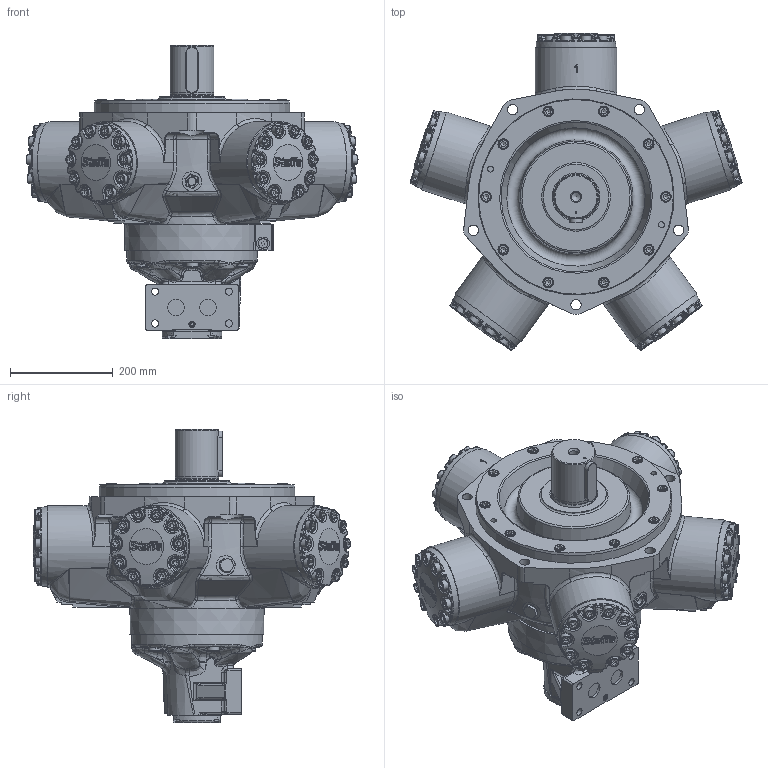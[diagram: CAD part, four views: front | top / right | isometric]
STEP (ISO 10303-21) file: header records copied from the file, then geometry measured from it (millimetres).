
FILE_DESCRIPTION(/* description */ (''),/* implementation_level */ '2;1');
FILE_NAME(/* name */ 'HMC200_P1_SM3_C_70.stp',/* time_stamp */ '2025-06-19T13:56:17+01:00',/* author */ ('ccallanga'),/* organization */ (''),/* preprocessor_version */ 'ST-DEVELOPER v20',/* originating_system */ 'Autodesk Inventor 2024',/* authorisation */ '');
FILE_SCHEMA (('AUTOMOTIVE_DESIGN { 1 0 10303 214 3 1 1 }'));
Products named in the file (1): 017751 HMC200 Web Assembly_Simplify_1
Bounding box: 645.1 x 616.02 x 569.42 mm (x, y, z)
Volume: 46681368 mm3; surface area: 1217782.5 mm2
Topology: 1 solids, 1 shells, 4707 faces, 11523 edges, 6840 vertices
Faces by surface type: bspline 1820, plane 1244, cylinder 974, torus 381, cone 173, sphere 115
Full cylindrical faces by diameter (mm): 2.2 x4, 4 x1, 4.134 x4, 5.5 x4, 9.4 x2, 11.328 x2, 11.913 x4, 12 x2, 12.7 x4, 14 x4, 16.51 x1, 17.323 x1, 19 x1, 19.05 x60, 20 x9, 20.637 x60, 23.825 x5, 25 x1, 25.4 x5, 26.92 x2, 32 x2, 38.1 x3, 68.58 x1, 85.001 x1, 88.837 x1, 92.964 x1, 127 x1, 254 x1, 380.91 x1
Entity records: 223215 total; most frequent: CARTESIAN_POINT 121739, ORIENTED_EDGE 22582, DIRECTION 16071, EDGE_CURVE 11291, VERTEX_POINT 6840, AXIS2_PLACEMENT_3D 6325, EDGE_LOOP 4981, STYLED_ITEM 4708
